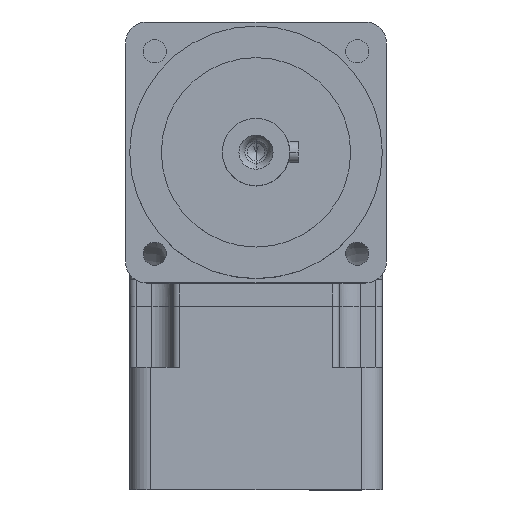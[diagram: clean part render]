
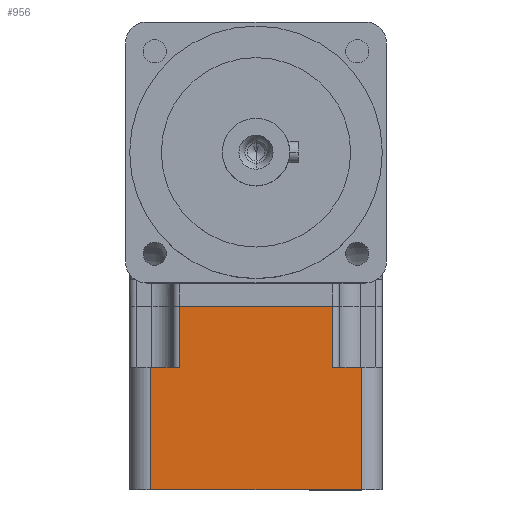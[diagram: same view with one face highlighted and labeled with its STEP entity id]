
A CAD part, top view. The second image highlights one B-rep face of the part: STEP entity #956.
In plain terms, the highlighted planar face has unit normal (0, 0, 1) as drawn and (1, 0, 0) by its records, which use the part's own axes.
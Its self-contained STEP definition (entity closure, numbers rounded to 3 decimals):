
#377 = EDGE_CURVE ( 'NONE', #8072, #5289, #5095, .T. ) ;
#509 = CARTESIAN_POINT ( 'NONE',  ( 30., -18.249, -43.5 ) ) ;
#620 = AXIS2_PLACEMENT_3D ( 'NONE', #6688, #10356, #8663 ) ;
#707 = VECTOR ( 'NONE', #2988, 1000. ) ;
#909 = ORIENTED_EDGE ( 'NONE', *, *, #11262, .F. ) ;
#956 = ADVANCED_FACE ( 'NONE', ( #10412 ), #6801, .F. ) ;
#1426 = DIRECTION ( 'NONE',  ( 0., 0., -1. ) ) ;
#1582 = LINE ( 'NONE', #4317, #4713 ) ;
#1646 = DIRECTION ( 'NONE',  ( 0., 0., 1. ) ) ;
#1759 = VECTOR ( 'NONE', #2375, 1000. ) ;
#1979 = VECTOR ( 'NONE', #1646, 1000. ) ;
#2021 = CARTESIAN_POINT ( 'NONE',  ( 30., 25., -43.5 ) ) ;
#2277 = LINE ( 'NONE', #6856, #3248 ) ;
#2375 = DIRECTION ( 'NONE',  ( 0., 1., 0. ) ) ;
#2597 = EDGE_CURVE ( 'NONE', #9527, #7509, #4385, .T. ) ;
#2988 = DIRECTION ( 'NONE',  ( 0., 0., -1. ) ) ;
#3012 = VECTOR ( 'NONE', #11395, 1000. ) ;
#3085 = LINE ( 'NONE', #6757, #4907 ) ;
#3248 = VECTOR ( 'NONE', #1426, 1000. ) ;
#3347 = CARTESIAN_POINT ( 'NONE',  ( 30., 30., -43.5 ) ) ;
#4017 = VERTEX_POINT ( 'NONE', #11607 ) ;
#4035 = ORIENTED_EDGE ( 'NONE', *, *, #8265, .T. ) ;
#4075 = LINE ( 'NONE', #5991, #3012 ) ;
#4317 = CARTESIAN_POINT ( 'NONE',  ( 30., 30., 0. ) ) ;
#4385 = LINE ( 'NONE', #3347, #7738 ) ;
#4713 = VECTOR ( 'NONE', #7977, 1000. ) ;
#4849 = CARTESIAN_POINT ( 'NONE',  ( 30., -18.249, 0. ) ) ;
#4907 = VECTOR ( 'NONE', #7532, 1000. ) ;
#5095 = LINE ( 'NONE', #8758, #1759 ) ;
#5262 = CARTESIAN_POINT ( 'NONE',  ( 30., -18.249, -14.5 ) ) ;
#5289 = VERTEX_POINT ( 'NONE', #10941 ) ;
#5417 = EDGE_LOOP ( 'NONE', ( #9442, #5431, #909, #4035, #9946, #6497, #6846, #8727 ) ) ;
#5431 = ORIENTED_EDGE ( 'NONE', *, *, #6577, .T. ) ;
#5991 = CARTESIAN_POINT ( 'NONE',  ( 30., 25., -43.5 ) ) ;
#6174 = CARTESIAN_POINT ( 'NONE',  ( 30., 18.249, -43.5 ) ) ;
#6251 = CARTESIAN_POINT ( 'NONE',  ( 30., -25., -14.5 ) ) ;
#6497 = ORIENTED_EDGE ( 'NONE', *, *, #8624, .T. ) ;
#6577 = EDGE_CURVE ( 'NONE', #7428, #9032, #6779, .T. ) ;
#6688 = CARTESIAN_POINT ( 'NONE',  ( 30., 30., -43.5 ) ) ;
#6757 = CARTESIAN_POINT ( 'NONE',  ( 30., -19.749, -14.5 ) ) ;
#6779 = LINE ( 'NONE', #509, #707 ) ;
#6801 = PLANE ( 'NONE',  #620 ) ;
#6846 = ORIENTED_EDGE ( 'NONE', *, *, #377, .F. ) ;
#6856 = CARTESIAN_POINT ( 'NONE',  ( 30., -25., -43.5 ) ) ;
#7428 = VERTEX_POINT ( 'NONE', #4849 ) ;
#7509 = VERTEX_POINT ( 'NONE', #8874 ) ;
#7532 = DIRECTION ( 'NONE',  ( 0., 1., 0. ) ) ;
#7738 = VECTOR ( 'NONE', #11470, 1000. ) ;
#7977 = DIRECTION ( 'NONE',  ( 0., -1., 0. ) ) ;
#8072 = VERTEX_POINT ( 'NONE', #8422 ) ;
#8265 = EDGE_CURVE ( 'NONE', #10753, #7509, #2277, .T. ) ;
#8422 = CARTESIAN_POINT ( 'NONE',  ( 30., 18.249, -14.5 ) ) ;
#8624 = EDGE_CURVE ( 'NONE', #9527, #5289, #4075, .T. ) ;
#8663 = DIRECTION ( 'NONE',  ( 0., 0., 1. ) ) ;
#8727 = ORIENTED_EDGE ( 'NONE', *, *, #9875, .T. ) ;
#8758 = CARTESIAN_POINT ( 'NONE',  ( 30., 30., -14.5 ) ) ;
#8874 = CARTESIAN_POINT ( 'NONE',  ( 30., -25., -43.5 ) ) ;
#9032 = VERTEX_POINT ( 'NONE', #5262 ) ;
#9442 = ORIENTED_EDGE ( 'NONE', *, *, #11019, .T. ) ;
#9527 = VERTEX_POINT ( 'NONE', #2021 ) ;
#9875 = EDGE_CURVE ( 'NONE', #8072, #4017, #10745, .T. ) ;
#9946 = ORIENTED_EDGE ( 'NONE', *, *, #2597, .F. ) ;
#10356 = DIRECTION ( 'NONE',  ( -1., 0., 0. ) ) ;
#10412 = FACE_OUTER_BOUND ( 'NONE', #5417, .T. ) ;
#10745 = LINE ( 'NONE', #6174, #1979 ) ;
#10753 = VERTEX_POINT ( 'NONE', #6251 ) ;
#10941 = CARTESIAN_POINT ( 'NONE',  ( 30., 25., -14.5 ) ) ;
#11019 = EDGE_CURVE ( 'NONE', #4017, #7428, #1582, .T. ) ;
#11262 = EDGE_CURVE ( 'NONE', #10753, #9032, #3085, .T. ) ;
#11395 = DIRECTION ( 'NONE',  ( 0., 0., 1. ) ) ;
#11470 = DIRECTION ( 'NONE',  ( 0., -1., 0. ) ) ;
#11607 = CARTESIAN_POINT ( 'NONE',  ( 30., 18.249, 0. ) ) ;
